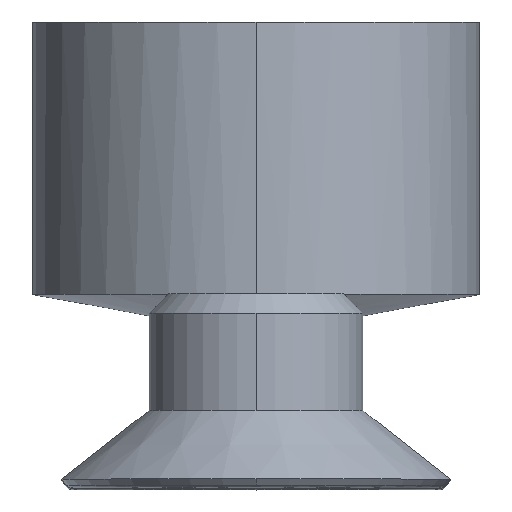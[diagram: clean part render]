
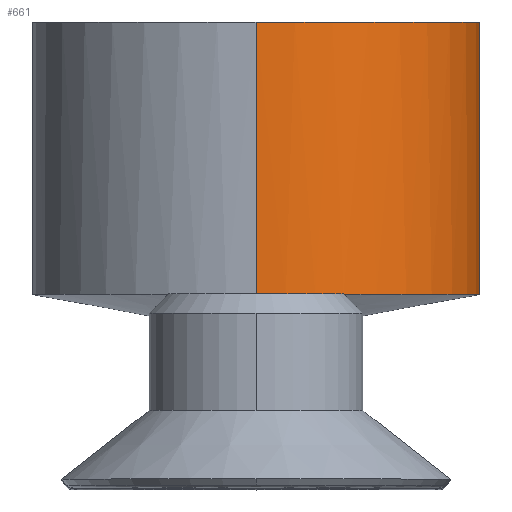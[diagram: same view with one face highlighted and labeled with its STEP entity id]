
A CAD part, top view. The second image highlights one B-rep face of the part: STEP entity #661.
In plain terms, the highlighted cylindrical face has radius 5.75 mm (diameter 11.5 mm), a partial arc.
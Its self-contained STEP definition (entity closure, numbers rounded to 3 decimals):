
#49 = CARTESIAN_POINT ( 'NONE',  ( 0., 12., 0. ) ) ;
#93 = CARTESIAN_POINT ( 'NONE',  ( 0., 12., 0. ) ) ;
#119 = LINE ( 'NONE', #813, #891 ) ;
#147 = VERTEX_POINT ( 'NONE', #268 ) ;
#179 = EDGE_CURVE ( 'NONE', #147, #1272, #505, .T. ) ;
#184 = AXIS2_PLACEMENT_3D ( 'NONE', #49, #1281, #307 ) ;
#199 = ORIENTED_EDGE ( 'NONE', *, *, #1328, .T. ) ;
#264 = AXIS2_PLACEMENT_3D ( 'NONE', #1359, #1356, #1346 ) ;
#268 = CARTESIAN_POINT ( 'NONE',  ( 2.25, 5., 5.292 ) ) ;
#307 = DIRECTION ( 'NONE',  ( 0., 0., -1. ) ) ;
#312 = VERTEX_POINT ( 'NONE', #587 ) ;
#350 = VERTEX_POINT ( 'NONE', #779 ) ;
#351 = CIRCLE ( 'NONE', #264, 5.75 ) ;
#356 = VECTOR ( 'NONE', #620, 1000. ) ;
#372 = DIRECTION ( 'NONE',  ( 0., 0., -1. ) ) ;
#385 = DIRECTION ( 'NONE',  ( 0., 0., -1. ) ) ;
#397 = DIRECTION ( 'NONE',  ( 0., -1., 0. ) ) ;
#425 = CARTESIAN_POINT ( 'NONE',  ( 0., 5., 0. ) ) ;
#428 = CARTESIAN_POINT ( 'NONE',  ( 0., 5., 5.75 ) ) ;
#434 = CARTESIAN_POINT ( 'NONE',  ( 0., 12., -5.75 ) ) ;
#448 = ORIENTED_EDGE ( 'NONE', *, *, #888, .F. ) ;
#470 = FACE_OUTER_BOUND ( 'NONE', #657, .T. ) ;
#478 = ORIENTED_EDGE ( 'NONE', *, *, #759, .F. ) ;
#505 = CIRCLE ( 'NONE', #634, 5.75 ) ;
#517 = DIRECTION ( 'NONE',  ( 0., 0., -1. ) ) ;
#535 = CIRCLE ( 'NONE', #1100, 5.75 ) ;
#587 = CARTESIAN_POINT ( 'NONE',  ( 0., 12., 5.75 ) ) ;
#602 = EDGE_CURVE ( 'NONE', #312, #350, #1042, .T. ) ;
#611 = CARTESIAN_POINT ( 'NONE',  ( 0., 5., 0. ) ) ;
#620 = DIRECTION ( 'NONE',  ( 0., -1., 0. ) ) ;
#634 = AXIS2_PLACEMENT_3D ( 'NONE', #611, #668, #517 ) ;
#657 = EDGE_LOOP ( 'NONE', ( #1266, #1280, #982, #448, #199, #478 ) ) ;
#661 = ADVANCED_FACE ( 'NONE', ( #470 ), #971, .T. ) ;
#668 = DIRECTION ( 'NONE',  ( 0., -1., 0. ) ) ;
#743 = EDGE_CURVE ( 'NONE', #312, #1272, #119, .T. ) ;
#759 = EDGE_CURVE ( 'NONE', #350, #970, #1228, .T. ) ;
#779 = CARTESIAN_POINT ( 'NONE',  ( 0., 12., -5.75 ) ) ;
#813 = CARTESIAN_POINT ( 'NONE',  ( 0., 12., 5.75 ) ) ;
#888 = EDGE_CURVE ( 'NONE', #1194, #147, #535, .T. ) ;
#890 = DIRECTION ( 'NONE',  ( 0., -1., 0. ) ) ;
#891 = VECTOR ( 'NONE', #890, 1000. ) ;
#892 = CARTESIAN_POINT ( 'NONE',  ( 0., 5., -5.75 ) ) ;
#970 = VERTEX_POINT ( 'NONE', #892 ) ;
#971 = CYLINDRICAL_SURFACE ( 'NONE', #184, 5.75 ) ;
#982 = ORIENTED_EDGE ( 'NONE', *, *, #179, .F. ) ;
#1026 = DIRECTION ( 'NONE',  ( 0., 1., 0. ) ) ;
#1042 = CIRCLE ( 'NONE', #1219, 5.75 ) ;
#1100 = AXIS2_PLACEMENT_3D ( 'NONE', #425, #397, #385 ) ;
#1194 = VERTEX_POINT ( 'NONE', #1325 ) ;
#1219 = AXIS2_PLACEMENT_3D ( 'NONE', #93, #1026, #372 ) ;
#1228 = LINE ( 'NONE', #434, #356 ) ;
#1266 = ORIENTED_EDGE ( 'NONE', *, *, #602, .F. ) ;
#1272 = VERTEX_POINT ( 'NONE', #428 ) ;
#1280 = ORIENTED_EDGE ( 'NONE', *, *, #743, .T. ) ;
#1281 = DIRECTION ( 'NONE',  ( 0., -1., 0. ) ) ;
#1325 = CARTESIAN_POINT ( 'NONE',  ( 2.25, 5., -5.292 ) ) ;
#1328 = EDGE_CURVE ( 'NONE', #1194, #970, #351, .T. ) ;
#1346 = DIRECTION ( 'NONE',  ( 0., 0., -1. ) ) ;
#1356 = DIRECTION ( 'NONE',  ( 0., 1., 0. ) ) ;
#1359 = CARTESIAN_POINT ( 'NONE',  ( 0., 5., 0. ) ) ;
